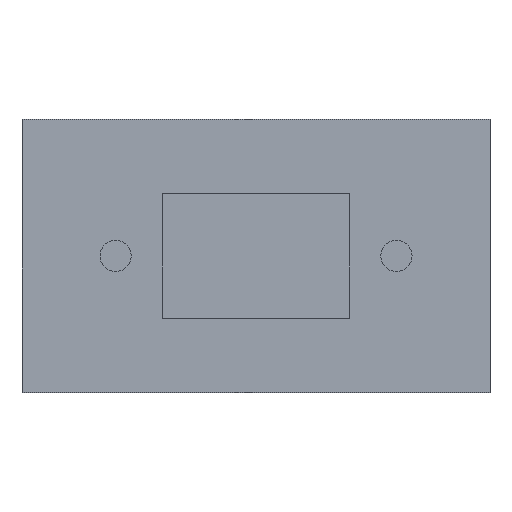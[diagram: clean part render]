
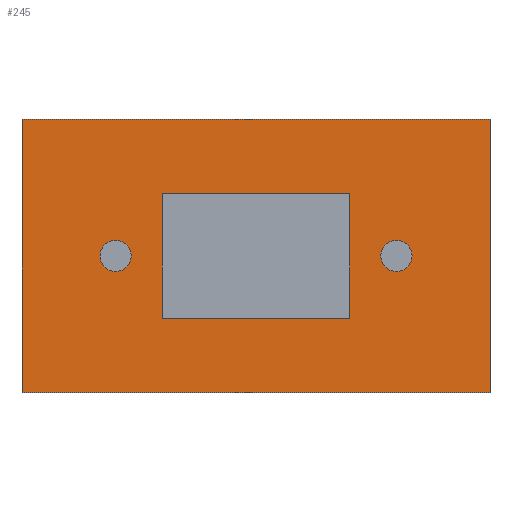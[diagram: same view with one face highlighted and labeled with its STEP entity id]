
A CAD part, top view. The second image highlights one B-rep face of the part: STEP entity #245.
In plain terms, the highlighted planar face has unit normal (0, 0, 1).
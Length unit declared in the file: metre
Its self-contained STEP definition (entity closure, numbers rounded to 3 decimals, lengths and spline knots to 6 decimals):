
#15=FACE_BOUND('',#60,.T.);
#16=FACE_BOUND('',#61,.T.);
#17=FACE_BOUND('',#62,.T.);
#29=PLANE('',#281);
#44=FACE_OUTER_BOUND('',#59,.T.);
#59=EDGE_LOOP('',(#216,#217,#218,#219));
#60=EDGE_LOOP('',(#220));
#61=EDGE_LOOP('',(#221));
#62=EDGE_LOOP('',(#222,#223,#224,#225));
#66=LINE('',#367,#92);
#70=LINE('',#375,#96);
#73=LINE('',#381,#99);
#76=LINE('',#386,#102);
#80=LINE('',#396,#106);
#83=LINE('',#402,#109);
#87=LINE('',#409,#113);
#89=LINE('',#412,#115);
#92=VECTOR('',#305,0.01);
#96=VECTOR('',#311,0.01);
#99=VECTOR('',#316,0.01);
#102=VECTOR('',#321,0.01);
#106=VECTOR('',#329,0.01);
#109=VECTOR('',#334,0.01);
#113=VECTOR('',#340,0.01);
#115=VECTOR('',#344,0.01);
#117=CIRCLE('',#266,0.02);
#119=CIRCLE('',#270,0.02);
#121=VERTEX_POINT('',#353);
#123=VERTEX_POINT('',#360);
#124=VERTEX_POINT('',#365);
#125=VERTEX_POINT('',#366);
#128=VERTEX_POINT('',#374);
#130=VERTEX_POINT('',#380);
#134=VERTEX_POINT('',#393);
#135=VERTEX_POINT('',#395);
#137=VERTEX_POINT('',#401);
#139=VERTEX_POINT('',#407);
#142=EDGE_CURVE('',#121,#121,#117,.T.);
#145=EDGE_CURVE('',#123,#123,#119,.T.);
#146=EDGE_CURVE('',#124,#125,#66,.T.);
#150=EDGE_CURVE('',#125,#128,#70,.T.);
#153=EDGE_CURVE('',#128,#130,#73,.T.);
#156=EDGE_CURVE('',#130,#124,#76,.T.);
#160=EDGE_CURVE('',#135,#134,#80,.T.);
#163=EDGE_CURVE('',#137,#135,#83,.T.);
#167=EDGE_CURVE('',#134,#139,#87,.T.);
#169=EDGE_CURVE('',#139,#137,#89,.T.);
#216=ORIENTED_EDGE('',*,*,#163,.T.);
#217=ORIENTED_EDGE('',*,*,#160,.T.);
#218=ORIENTED_EDGE('',*,*,#167,.T.);
#219=ORIENTED_EDGE('',*,*,#169,.T.);
#220=ORIENTED_EDGE('',*,*,#142,.T.);
#221=ORIENTED_EDGE('',*,*,#145,.T.);
#222=ORIENTED_EDGE('',*,*,#146,.T.);
#223=ORIENTED_EDGE('',*,*,#150,.T.);
#224=ORIENTED_EDGE('',*,*,#153,.T.);
#225=ORIENTED_EDGE('',*,*,#156,.T.);
#245=ADVANCED_FACE('',(#44,#15,#16,#17),#29,.T.);
#266=AXIS2_PLACEMENT_3D('',#355,#290,#291);
#270=AXIS2_PLACEMENT_3D('',#362,#299,#300);
#281=AXIS2_PLACEMENT_3D('',#413,#345,#346);
#290=DIRECTION('center_axis',(0.,0.,-1.));
#291=DIRECTION('ref_axis',(-1.,0.,0.));
#299=DIRECTION('center_axis',(0.,0.,-1.));
#300=DIRECTION('ref_axis',(-1.,0.,0.));
#305=DIRECTION('',(0.,1.,0.));
#311=DIRECTION('',(1.,0.,0.));
#316=DIRECTION('',(0.,-1.,0.));
#321=DIRECTION('',(-1.,0.,0.));
#329=DIRECTION('',(0.,1.,0.));
#334=DIRECTION('',(1.,0.,0.));
#340=DIRECTION('',(-1.,0.,0.));
#344=DIRECTION('',(0.,-1.,0.));
#345=DIRECTION('center_axis',(0.,0.,1.));
#346=DIRECTION('ref_axis',(1.,0.,0.));
#353=CARTESIAN_POINT('',(0.2,0.,0.065));
#355=CARTESIAN_POINT('Origin',(0.18,0.,0.065));
#360=CARTESIAN_POINT('',(-0.16,0.,0.065));
#362=CARTESIAN_POINT('Origin',(-0.18,0.,0.065));
#365=CARTESIAN_POINT('',(-0.12,-0.08,0.065));
#366=CARTESIAN_POINT('',(-0.12,0.08,0.065));
#367=CARTESIAN_POINT('',(-0.12,0.04,0.065));
#374=CARTESIAN_POINT('',(0.12,0.08,0.065));
#375=CARTESIAN_POINT('',(0.06,0.08,0.065));
#380=CARTESIAN_POINT('',(0.12,-0.08,0.065));
#381=CARTESIAN_POINT('',(0.12,-0.04,0.065));
#386=CARTESIAN_POINT('',(-0.06,-0.08,0.065));
#393=CARTESIAN_POINT('',(0.3,0.175,0.065));
#395=CARTESIAN_POINT('',(0.3,-0.175,0.065));
#396=CARTESIAN_POINT('',(0.3,-0.175,0.065));
#401=CARTESIAN_POINT('',(-0.3,-0.175,0.065));
#402=CARTESIAN_POINT('',(-0.3,-0.175,0.065));
#407=CARTESIAN_POINT('',(-0.3,0.175,0.065));
#409=CARTESIAN_POINT('',(0.3,0.175,0.065));
#412=CARTESIAN_POINT('',(-0.3,0.175,0.065));
#413=CARTESIAN_POINT('Origin',(0.,0.,0.065));
